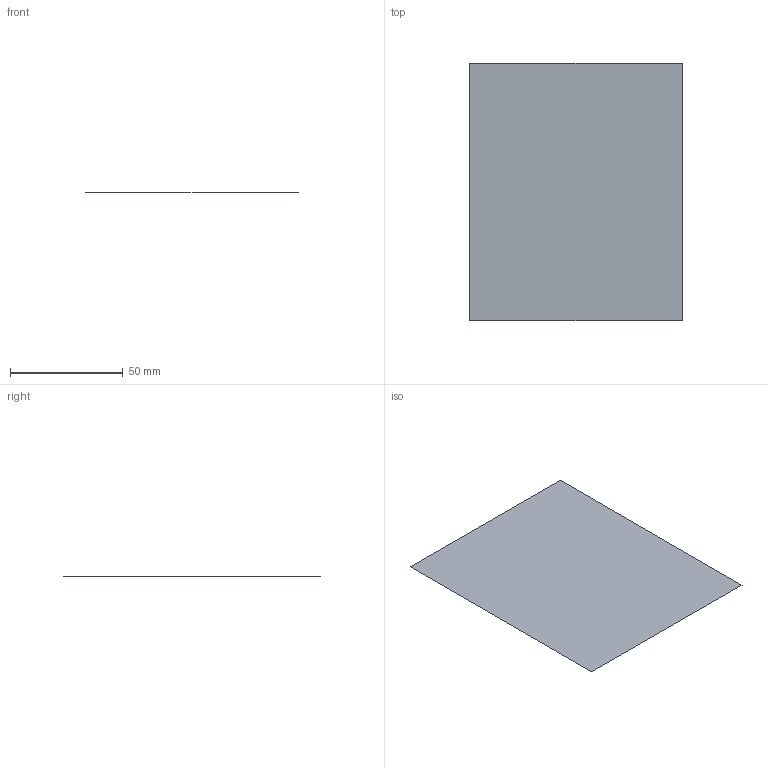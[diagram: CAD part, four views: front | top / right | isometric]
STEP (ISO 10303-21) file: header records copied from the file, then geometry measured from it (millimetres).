
FILE_DESCRIPTION(('CATIA V5 STEP Exchange'),'2;1');
FILE_NAME('C:\_Andres\UNIVERSIDAD\IQS\ASIGNATURAS\DAO\EXF\EXF-15161c\1original\Casals_Vilar_Ej06-calculo_v4.stp','2016-03-04T20:57:42+00:00',('none'),('none'),'CATIA Version 5 Release 20 SP 1 (IN-10)','CATIA V5 STEP AP203','none');
FILE_SCHEMA(('CONFIG_CONTROL_DESIGN'));
Length unit declared in the file: millimetre
Products named in the file (1): Casals_Vilar_Ej06-calculo_v4
Bounding box: 94 x 114 x 0 mm (x, y, z)
Surface area: 10716 mm2 (no closed solid volume)
Topology: 0 solids, 1 shells, 1 faces, 8 edges, 9 vertices
Faces by surface type: plane 1
Entity records: 130 total; most frequent: CARTESIAN_POINT 23, DIRECTION 12, VECTOR 8, LINE 8, COMPOSITE_CURVE_SEGMENT 4, ORIENTED_EDGE 4, CC_DESIGN_PERSON_AND_ORGANIZATION_ASSIGNMENT 4, PERSON_AND_ORGANIZATION_ROLE 4
